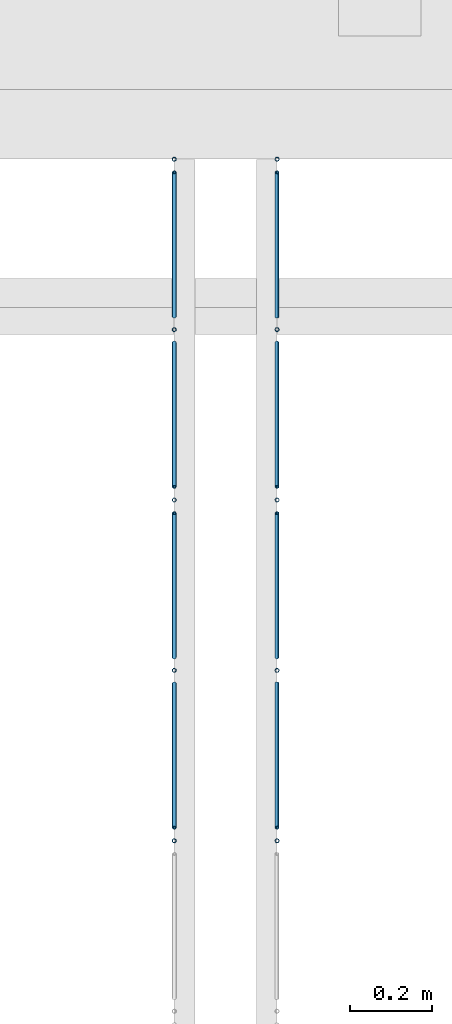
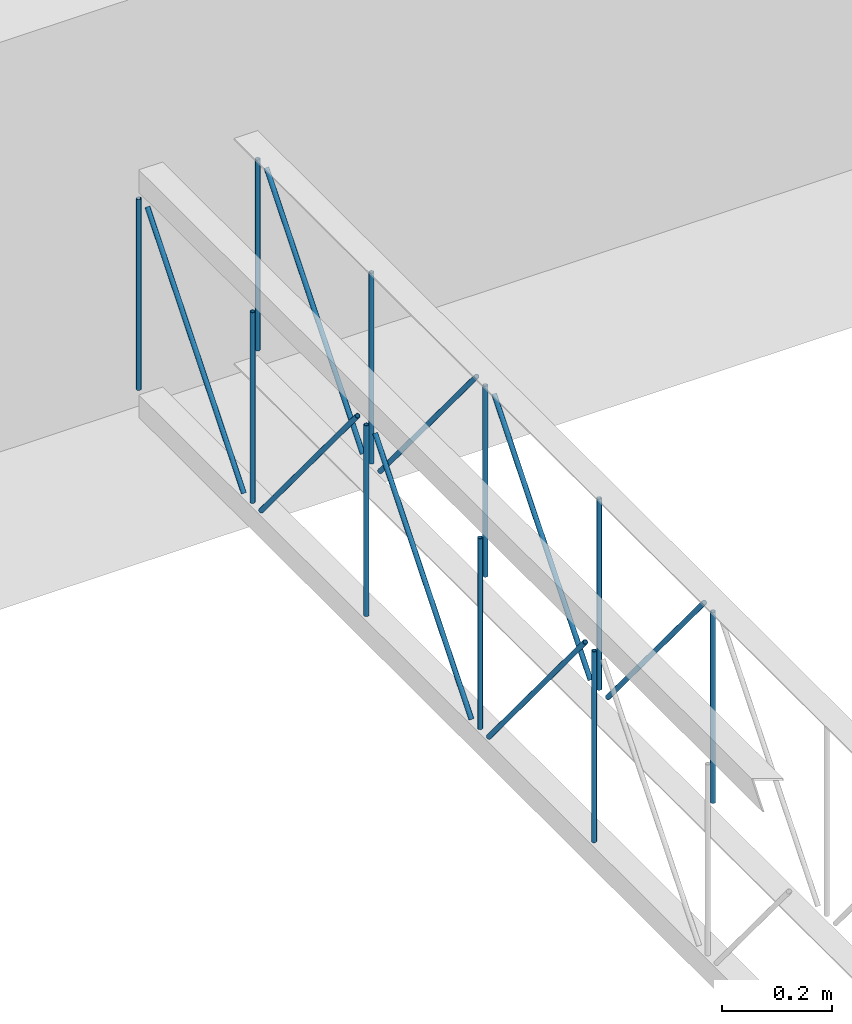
# One storey, part 33 of 153: 18 members, 2 elements without a shape of their own.
"""IFC4 building model written with IfcOpenShell, lengths in metres."""

from ifc_helpers import new_model, entity, si_unit, converted_unit, derived_unit, direction, frame, origin, place, context, subcontext, project, spatial, arc, indexed_curve, outline, extrude, source, transform, mapped, material, type_object, type_shapes, element, aggregate, save


model = new_model("IFC4")

# Units and contexts
model_context = context("Model", 3, precision=1e-05, world=origin(), true_north=direction((6.123031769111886e-17, 1.0)))
body_context = subcontext(model_context, "Body", "Model", "MODEL_VIEW")
ifc_project = project(units=[si_unit("LENGTHUNIT", "METRE"), si_unit("AREAUNIT", "SQUARE_METRE"), si_unit("VOLUMEUNIT", "CUBIC_METRE"), converted_unit("PLANEANGLEUNIT", "DEGREE", entity("IfcRatioMeasure", 0.017453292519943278), si_unit("PLANEANGLEUNIT", "RADIAN"), dimensions=[0, 0, 0, 0, 0, 0, 0]), si_unit("MASSUNIT", "GRAM", prefix="KILO"), derived_unit("MASSDENSITYUNIT", [(si_unit("MASSUNIT", "GRAM", prefix="KILO"), 1), (si_unit("LENGTHUNIT", "METRE"), -3)]), derived_unit("MOMENTOFINERTIAUNIT", [(si_unit("LENGTHUNIT", "METRE"), 4)]), si_unit("TIMEUNIT", "SECOND"), si_unit("FREQUENCYUNIT", "HERTZ"), si_unit("THERMODYNAMICTEMPERATUREUNIT", "DEGREE_CELSIUS"), derived_unit("THERMALTRANSMITTANCEUNIT", [(si_unit("MASSUNIT", "GRAM", prefix="KILO"), 1), (si_unit("THERMODYNAMICTEMPERATUREUNIT", "KELVIN"), -1), (si_unit("TIMEUNIT", "SECOND"), -3)]), derived_unit("VOLUMETRICFLOWRATEUNIT", [(si_unit("LENGTHUNIT", "METRE"), 3), (si_unit("TIMEUNIT", "SECOND"), -1)]), derived_unit("MASSFLOWRATEUNIT", [(si_unit("MASSUNIT", "GRAM", prefix="KILO"), 1), (si_unit("TIMEUNIT", "SECOND"), -1)]), derived_unit("ROTATIONALFREQUENCYUNIT", [(si_unit("TIMEUNIT", "SECOND"), -1)]), si_unit("ELECTRICCURRENTUNIT", "AMPERE"), si_unit("ELECTRICVOLTAGEUNIT", "VOLT"), si_unit("POWERUNIT", "WATT"), si_unit("FORCEUNIT", "NEWTON", prefix="KILO"), si_unit("ILLUMINANCEUNIT", "LUX"), si_unit("LUMINOUSFLUXUNIT", "LUMEN"), si_unit("LUMINOUSINTENSITYUNIT", "CANDELA"), derived_unit("USERDEFINED", [(si_unit("MASSUNIT", "GRAM", prefix="KILO"), -1), (si_unit("LENGTHUNIT", "METRE"), -2), (si_unit("TIMEUNIT", "SECOND"), 3), (si_unit("LUMINOUSFLUXUNIT", "LUMEN"), 1)]), derived_unit("SOUNDPOWERUNIT", [(si_unit("MASSUNIT", "GRAM", prefix="KILO"), 1), (si_unit("LENGTHUNIT", "METRE"), 2), (si_unit("TIMEUNIT", "SECOND"), -3)]), derived_unit("SOUNDPRESSUREUNIT", [(si_unit("MASSUNIT", "GRAM", prefix="KILO"), 1), (si_unit("LENGTHUNIT", "METRE"), -1), (si_unit("TIMEUNIT", "SECOND"), -2)]), derived_unit("LINEARVELOCITYUNIT", [(si_unit("LENGTHUNIT", "METRE"), 1), (si_unit("TIMEUNIT", "SECOND"), -1)]), si_unit("PRESSUREUNIT", "PASCAL"), derived_unit("USERDEFINED", [(si_unit("LENGTHUNIT", "METRE"), -2), (si_unit("MASSUNIT", "GRAM", prefix="KILO"), 1), (si_unit("TIMEUNIT", "SECOND"), -2)]), derived_unit("LINEARFORCEUNIT", [(si_unit("MASSUNIT", "GRAM", prefix="KILO"), 1), (si_unit("LENGTHUNIT", "METRE"), 1), (si_unit("TIMEUNIT", "SECOND"), -2), (si_unit("LENGTHUNIT", "METRE"), -1)]), derived_unit("PLANARFORCEUNIT", [(si_unit("MASSUNIT", "GRAM", prefix="KILO"), 1), (si_unit("LENGTHUNIT", "METRE"), 1), (si_unit("TIMEUNIT", "SECOND"), -2), (si_unit("LENGTHUNIT", "METRE"), -2)])], contexts=[model_context])

# Site, building, storey
site_placement = place(None, origin())
site = spatial("IfcSite", under=ifc_project, at=site_placement, Name="Superficie", CompositionType="ELEMENT")
building_placement = place(site_placement, origin())
building = spatial("IfcBuilding", under=site, at=building_placement, CompositionType="ELEMENT")
storey_placement = place(building_placement, frame((0.0, 0.0, 3.5999999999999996)))
storey = spatial("IfcBuildingStorey", under=building, at=storey_placement, Name="Nivel 1", CompositionType="ELEMENT", Elevation=3.5999999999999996)

# Assembly, members
assembly_1_placement = place(storey_placement, origin())
assembly_1 = element("IfcElementAssembly", 1, at=assembly_1_placement, inside=storey, Name="Viga de celosia 13:Viga de celosia 13", ObjectType="Viga de celosia 13:Viga de celosia 13", AssemblyPlace="NOTDEFINED", PredefinedType="TRUSS")
ifc_material = material(Name="Metal - Calibre delgado", Category="Metal")
member_type_1 = type_object("IfcMemberType", Name="HSS-Tubo estructural redondo:HSS 0.01", PredefinedType="BRACE", material=ifc_material)
shared_shape_1 = source(origin(), body_context, "Body", "SweptSolid", [
    extrude(outline(indexed_curve([(-0.005000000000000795, 7.502054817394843e-18), (-9.800269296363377e-18, -0.005000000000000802), (0.005000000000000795, -7.502054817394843e-18), (8.07772287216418e-18, 0.005000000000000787)], segments=[arc(1, 2, 3), arc(3, 4, 1)], self_intersect=False), holes=[indexed_curve([(0.003999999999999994, 7.222511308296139e-17), (6.910645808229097e-17, -0.004000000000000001), (-0.003999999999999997, -1.8650054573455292e-17), (-2.9156497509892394e-17, 0.003999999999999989)], segments=[arc(1, 2, 3), arc(3, 4, 1)], self_intersect=False)]), frame((-0.21200000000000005, 0.0, 0.0), z_axis=(1.0, 0.0, 0.0), x_axis=(0.0, 1.0, 0.0)), (0.0, 0.0, 1.0), 0.4240000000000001),
])
type_shapes(member_type_1, [shared_shape_1])
member_1_placement = place(assembly_1_placement, frame((-13.813200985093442, -4.990991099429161, 0.25), z_axis=(0.0, 1.0, 0.0), x_axis=(0.0, 0.0, 1.0)))
member_1 = element("IfcMember", 2, at=member_1_placement, type_object=member_type_1, material=ifc_material, Name="HSS-Tubo estructural redondo:HSS 0.01", ObjectType="HSS-Tubo estructural redondo:HSS 0.01", PredefinedType="BRACE", context=body_context, shape_type="MappedRepresentation", body=[
    mapped(shared_shape_1, transform((0.0, 0.0, 0.0), scale=1.0)),
])
member_2_placement = place(assembly_1_placement, frame((-13.813200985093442, -4.576645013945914, 0.25), z_axis=(0.0, 1.0, 0.0), x_axis=(0.0, 0.0, 1.0)))
member_2 = element("IfcMember", 3, at=member_2_placement, type_object=member_type_1, material=ifc_material, Name="HSS-Tubo estructural redondo:HSS 0.01", ObjectType="HSS-Tubo estructural redondo:HSS 0.01", PredefinedType="BRACE", context=body_context, shape_type="MappedRepresentation", body=[
    mapped(shared_shape_1, transform((0.0, 0.0, 0.0), scale=1.0)),
])
member_3_placement = place(assembly_1_placement, frame((-13.813200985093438, -4.162298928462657, 0.25), z_axis=(0.0, 1.0, 0.0), x_axis=(0.0, 0.0, 1.0)))
member_3 = element("IfcMember", 4, at=member_3_placement, type_object=member_type_1, material=ifc_material, Name="HSS-Tubo estructural redondo:HSS 0.01", ObjectType="HSS-Tubo estructural redondo:HSS 0.01", PredefinedType="BRACE", context=body_context, shape_type="MappedRepresentation", body=[
    mapped(shared_shape_1, transform((0.0, 0.0, 0.0), scale=1.0)),
])
member_4_placement = place(assembly_1_placement, frame((-13.813200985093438, -3.747952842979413, 0.25), z_axis=(0.0, 1.0, 0.0), x_axis=(0.0, 0.0, 1.0)))
member_4 = element("IfcMember", 5, at=member_4_placement, type_object=member_type_1, material=ifc_material, Name="HSS-Tubo estructural redondo:HSS 0.01", ObjectType="HSS-Tubo estructural redondo:HSS 0.01", PredefinedType="BRACE", context=body_context, shape_type="MappedRepresentation", body=[
    mapped(shared_shape_1, transform((0.0, 0.0, 0.0), scale=1.0)),
])
member_5_placement = place(assembly_1_placement, frame((-13.813200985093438, -3.3336067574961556, 0.25), z_axis=(0.0, 1.0, 0.0), x_axis=(0.0, 0.0, 1.0)))
member_5 = element("IfcMember", 6, at=member_5_placement, type_object=member_type_1, material=ifc_material, Name="HSS-Tubo estructural redondo:HSS 0.01", ObjectType="HSS-Tubo estructural redondo:HSS 0.01", PredefinedType="BRACE", context=body_context, shape_type="MappedRepresentation", body=[
    mapped(shared_shape_1, transform((0.0, 0.0, 0.0), scale=1.0)),
])
member_type_2 = type_object("IfcMemberType", Name="HSS-Tubo estructural redondo:HSS 0.01", PredefinedType="BRACE", material=ifc_material)
shared_shape_2 = source(origin(), body_context, "Body", "SweptSolid", [
    extrude(outline(indexed_curve([(-0.005000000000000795, 7.502054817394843e-18), (-9.800269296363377e-18, -0.005000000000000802), (0.005000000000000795, -7.502054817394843e-18), (8.07772287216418e-18, 0.005000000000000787)], segments=[arc(1, 2, 3), arc(3, 4, 1)], self_intersect=False), holes=[indexed_curve([(0.003999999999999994, 7.222511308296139e-17), (6.910645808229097e-17, -0.004000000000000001), (-0.003999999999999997, -1.8650054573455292e-17), (-2.9156497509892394e-17, 0.003999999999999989)], segments=[arc(1, 2, 3), arc(3, 4, 1)], self_intersect=False)]), frame((-0.275, 0.0, 0.0), z_axis=(1.0, 0.0, 0.0), x_axis=(0.0, 1.0, 0.0)), (0.0, 0.0, 1.0), 0.55),
])
type_shapes(member_type_2, [shared_shape_2])
member_6_placement = place(assembly_1_placement, frame((-13.813200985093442, -4.7838180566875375, 0.25000000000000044), z_axis=(0.0, -0.7699758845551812, -0.6380729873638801), x_axis=(0.0, 0.6380729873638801, -0.7699758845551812)))
member_6 = element("IfcMember", 7, at=member_6_placement, type_object=member_type_2, material=ifc_material, Name="HSS-Tubo estructural redondo:HSS 0.01", ObjectType="HSS-Tubo estructural redondo:HSS 0.01", PredefinedType="BRACE", context=body_context, shape_type="MappedRepresentation", body=[
    mapped(shared_shape_2, transform((0.0, 0.0, 0.0), scale=1.0)),
])
member_7_placement = place(assembly_1_placement, frame((-13.813200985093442, -4.369471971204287, 0.25), z_axis=(0.0, 0.7699758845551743, -0.6380729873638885), x_axis=(0.0, 0.6380729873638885, 0.7699758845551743)))
member_7 = element("IfcMember", 8, at=member_7_placement, type_object=member_type_2, material=ifc_material, Name="HSS-Tubo estructural redondo:HSS 0.01", ObjectType="HSS-Tubo estructural redondo:HSS 0.01", PredefinedType="BRACE", context=body_context, shape_type="MappedRepresentation", body=[
    mapped(shared_shape_2, transform((0.0, 0.0, 0.0), scale=1.0)),
])
member_8_placement = place(assembly_1_placement, frame((-13.813200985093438, -3.955125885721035, 0.25), z_axis=(0.0, -0.7699758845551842, -0.6380729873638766), x_axis=(0.0, 0.6380729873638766, -0.7699758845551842)))
member_8 = element("IfcMember", 9, at=member_8_placement, type_object=member_type_2, material=ifc_material, Name="HSS-Tubo estructural redondo:HSS 0.01", ObjectType="HSS-Tubo estructural redondo:HSS 0.01", PredefinedType="BRACE", context=body_context, shape_type="MappedRepresentation", body=[
    mapped(shared_shape_2, transform((0.0, 0.0, 0.0), scale=1.0)),
])
member_9_placement = place(assembly_1_placement, frame((-13.813200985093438, -3.540779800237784, 0.25000000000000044), z_axis=(0.0, 0.7699758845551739, -0.638072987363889), x_axis=(0.0, 0.638072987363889, 0.7699758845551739)))
member_9 = element("IfcMember", 10, at=member_9_placement, type_object=member_type_2, material=ifc_material, Name="HSS-Tubo estructural redondo:HSS 0.01", ObjectType="HSS-Tubo estructural redondo:HSS 0.01", PredefinedType="BRACE", context=body_context, shape_type="MappedRepresentation", body=[
    mapped(shared_shape_2, transform((0.0, 0.0, 0.0), scale=1.0)),
])
aggregate(assembly_1, [member_1, member_2, member_3, member_4, member_5, member_6, member_7, member_8, member_9])

assembly_2_placement = place(storey_placement, origin())
assembly_2 = element("IfcElementAssembly", 11, at=assembly_2_placement, inside=storey, Name="Viga de celosia 13:Viga de celosia 13", ObjectType="Viga de celosia 13:Viga de celosia 13", AssemblyPlace="NOTDEFINED", PredefinedType="TRUSS")
member_type_3 = type_object("IfcMemberType", Name="HSS-Tubo estructural redondo:HSS 0.01", PredefinedType="BRACE", material=ifc_material)
shared_shape_3 = source(origin(), body_context, "Body", "SweptSolid", [
    extrude(outline(indexed_curve([(-0.005000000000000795, 2.0824731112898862e-17), (-2.3122945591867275e-17, -0.005000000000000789), (0.005000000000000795, -2.08247311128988e-17), (2.14003991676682e-17, 0.005000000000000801)], segments=[arc(1, 2, 3), arc(3, 4, 1)], self_intersect=False), holes=[indexed_curve([(0.003999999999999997, -1.3094283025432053e-17), (-1.531427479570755e-18, -0.003999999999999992), (-0.004, 4.0098531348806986e-17), (4.1481388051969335e-17, 0.0039999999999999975)], segments=[arc(1, 2, 3), arc(3, 4, 1)], self_intersect=False)]), frame((-0.21200000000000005, 0.0, 0.0), z_axis=(1.0, 0.0, 0.0), x_axis=(0.0, -1.0, 0.0)), (0.0, 0.0, 1.0), 0.4240000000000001),
])
type_shapes(member_type_3, [shared_shape_3])
member_10_placement = place(assembly_2_placement, frame((-13.563200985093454, -4.990991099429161, 0.25), z_axis=(0.0, 1.0, 0.0), x_axis=(0.0, 0.0, 1.0)))
member_10 = element("IfcMember", 12, at=member_10_placement, type_object=member_type_3, material=ifc_material, Name="HSS-Tubo estructural redondo:HSS 0.01", ObjectType="HSS-Tubo estructural redondo:HSS 0.01", PredefinedType="BRACE", context=body_context, shape_type="MappedRepresentation", body=[
    mapped(shared_shape_3, transform((0.0, 0.0, 0.0), scale=1.0)),
])
member_11_placement = place(assembly_2_placement, frame((-13.563200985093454, -4.576645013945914, 0.25), z_axis=(0.0, 1.0, 0.0), x_axis=(0.0, 0.0, 1.0)))
member_11 = element("IfcMember", 13, at=member_11_placement, type_object=member_type_3, material=ifc_material, Name="HSS-Tubo estructural redondo:HSS 0.01", ObjectType="HSS-Tubo estructural redondo:HSS 0.01", PredefinedType="BRACE", context=body_context, shape_type="MappedRepresentation", body=[
    mapped(shared_shape_3, transform((0.0, 0.0, 0.0), scale=1.0)),
])
member_12_placement = place(assembly_2_placement, frame((-13.563200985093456, -4.162298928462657, 0.25), z_axis=(0.0, 1.0, 0.0), x_axis=(0.0, 0.0, 1.0)))
member_12 = element("IfcMember", 14, at=member_12_placement, type_object=member_type_3, material=ifc_material, Name="HSS-Tubo estructural redondo:HSS 0.01", ObjectType="HSS-Tubo estructural redondo:HSS 0.01", PredefinedType="BRACE", context=body_context, shape_type="MappedRepresentation", body=[
    mapped(shared_shape_3, transform((0.0, 0.0, 0.0), scale=1.0)),
])
member_13_placement = place(assembly_2_placement, frame((-13.563200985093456, -3.747952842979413, 0.25), z_axis=(0.0, 1.0, 0.0), x_axis=(0.0, 0.0, 1.0)))
member_13 = element("IfcMember", 15, at=member_13_placement, type_object=member_type_3, material=ifc_material, Name="HSS-Tubo estructural redondo:HSS 0.01", ObjectType="HSS-Tubo estructural redondo:HSS 0.01", PredefinedType="BRACE", context=body_context, shape_type="MappedRepresentation", body=[
    mapped(shared_shape_3, transform((0.0, 0.0, 0.0), scale=1.0)),
])
member_14_placement = place(assembly_2_placement, frame((-13.563200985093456, -3.3336067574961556, 0.25), z_axis=(0.0, 1.0, 0.0), x_axis=(0.0, 0.0, 1.0)))
member_14 = element("IfcMember", 16, at=member_14_placement, type_object=member_type_3, material=ifc_material, Name="HSS-Tubo estructural redondo:HSS 0.01", ObjectType="HSS-Tubo estructural redondo:HSS 0.01", PredefinedType="BRACE", context=body_context, shape_type="MappedRepresentation", body=[
    mapped(shared_shape_3, transform((0.0, 0.0, 0.0), scale=1.0)),
])
member_type_4 = type_object("IfcMemberType", Name="HSS-Tubo estructural redondo:HSS 0.01", PredefinedType="BRACE", material=ifc_material)
shared_shape_4 = source(origin(), body_context, "Body", "SweptSolid", [
    extrude(outline(indexed_curve([(-0.005000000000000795, 2.0824731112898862e-17), (-2.3122945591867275e-17, -0.005000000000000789), (0.005000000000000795, -2.08247311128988e-17), (2.14003991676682e-17, 0.005000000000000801)], segments=[arc(1, 2, 3), arc(3, 4, 1)], self_intersect=False), holes=[indexed_curve([(0.003999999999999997, -1.3094283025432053e-17), (-1.531427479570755e-18, -0.003999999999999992), (-0.004, 4.0098531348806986e-17), (4.1481388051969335e-17, 0.0039999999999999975)], segments=[arc(1, 2, 3), arc(3, 4, 1)], self_intersect=False)]), frame((-0.275, 0.0, 0.0), z_axis=(1.0, 0.0, 0.0), x_axis=(0.0, -1.0, 0.0)), (0.0, 0.0, 1.0), 0.55),
])
type_shapes(member_type_4, [shared_shape_4])
member_15_placement = place(assembly_2_placement, frame((-13.563200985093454, -4.7838180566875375, 0.25000000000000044), z_axis=(0.0, -0.7699758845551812, -0.6380729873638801), x_axis=(0.0, 0.6380729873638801, -0.7699758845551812)))
member_15 = element("IfcMember", 17, at=member_15_placement, type_object=member_type_4, material=ifc_material, Name="HSS-Tubo estructural redondo:HSS 0.01", ObjectType="HSS-Tubo estructural redondo:HSS 0.01", PredefinedType="BRACE", context=body_context, shape_type="MappedRepresentation", body=[
    mapped(shared_shape_4, transform((0.0, 0.0, 0.0), scale=1.0)),
])
member_16_placement = place(assembly_2_placement, frame((-13.563200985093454, -4.369471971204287, 0.25), z_axis=(0.0, 0.7699758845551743, -0.6380729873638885), x_axis=(0.0, 0.6380729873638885, 0.7699758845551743)))
member_16 = element("IfcMember", 18, at=member_16_placement, type_object=member_type_4, material=ifc_material, Name="HSS-Tubo estructural redondo:HSS 0.01", ObjectType="HSS-Tubo estructural redondo:HSS 0.01", PredefinedType="BRACE", context=body_context, shape_type="MappedRepresentation", body=[
    mapped(shared_shape_4, transform((0.0, 0.0, 0.0), scale=1.0)),
])
member_17_placement = place(assembly_2_placement, frame((-13.563200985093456, -3.955125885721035, 0.25), z_axis=(0.0, -0.7699758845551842, -0.6380729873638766), x_axis=(0.0, 0.6380729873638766, -0.7699758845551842)))
member_17 = element("IfcMember", 19, at=member_17_placement, type_object=member_type_4, material=ifc_material, Name="HSS-Tubo estructural redondo:HSS 0.01", ObjectType="HSS-Tubo estructural redondo:HSS 0.01", PredefinedType="BRACE", context=body_context, shape_type="MappedRepresentation", body=[
    mapped(shared_shape_4, transform((0.0, 0.0, 0.0), scale=1.0)),
])
member_18_placement = place(assembly_2_placement, frame((-13.563200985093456, -3.540779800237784, 0.25000000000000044), z_axis=(0.0, 0.7699758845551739, -0.638072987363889), x_axis=(0.0, 0.638072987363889, 0.7699758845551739)))
member_18 = element("IfcMember", 20, at=member_18_placement, type_object=member_type_4, material=ifc_material, Name="HSS-Tubo estructural redondo:HSS 0.01", ObjectType="HSS-Tubo estructural redondo:HSS 0.01", PredefinedType="BRACE", context=body_context, shape_type="MappedRepresentation", body=[
    mapped(shared_shape_4, transform((0.0, 0.0, 0.0), scale=1.0)),
])
aggregate(assembly_2, [member_10, member_11, member_12, member_13, member_14, member_15, member_16, member_17, member_18])

save(model, "model.ifc")
